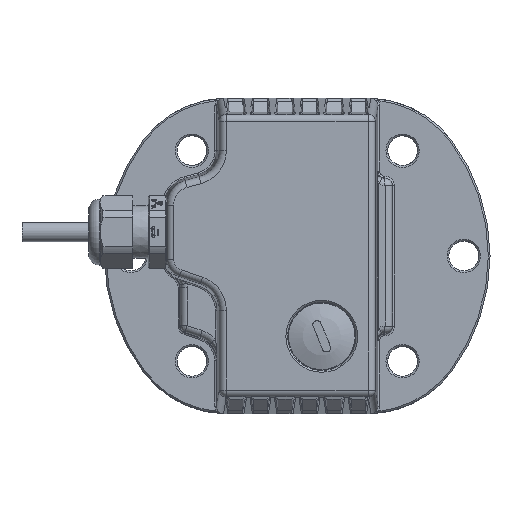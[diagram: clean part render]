
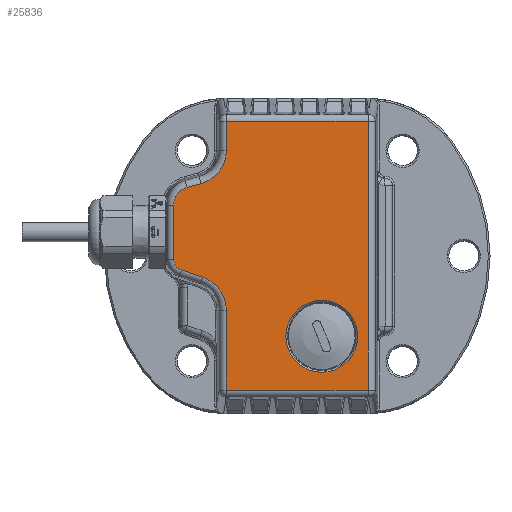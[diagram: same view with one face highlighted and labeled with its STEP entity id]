
A CAD part, top view. The second image highlights one B-rep face of the part: STEP entity #25836.
In plain terms, the highlighted planar face has unit normal (0, 0, 1).
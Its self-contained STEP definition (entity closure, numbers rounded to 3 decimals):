
#403=PLANE('',#28257);
#1397=CIRCLE('',#27369,10.25);
#1478=CIRCLE('',#27588,9.965);
#1486=CIRCLE('',#27600,3.249);
#1494=CIRCLE('',#27612,5.249);
#1502=CIRCLE('',#27624,9.803);
#2573=LINE('',#40751,#4981);
#2577=LINE('',#40770,#4985);
#2587=LINE('',#40784,#4995);
#2588=LINE('',#40800,#4996);
#2591=LINE('',#40807,#4999);
#2602=LINE('',#40833,#5010);
#2605=LINE('',#40840,#5013);
#2607=LINE('',#40854,#5015);
#4981=VECTOR('',#30720,1000.);
#4985=VECTOR('',#30744,1000.);
#4995=VECTOR('',#30758,1000.);
#4996=VECTOR('',#30779,1000.);
#4999=VECTOR('',#30786,1000.);
#5010=VECTOR('',#30817,1000.);
#5013=VECTOR('',#30824,1000.);
#5015=VECTOR('',#30844,1000.);
#9542=ORIENTED_EDGE('',*,*,#15376,.F.);
#9543=ORIENTED_EDGE('',*,*,#15370,.F.);
#9544=ORIENTED_EDGE('',*,*,#15381,.F.);
#9545=ORIENTED_EDGE('',*,*,#15400,.F.);
#9546=ORIENTED_EDGE('',*,*,#15422,.F.);
#9547=ORIENTED_EDGE('',*,*,#15434,.F.);
#9548=ORIENTED_EDGE('',*,*,#15432,.F.);
#9549=ORIENTED_EDGE('',*,*,#15426,.F.);
#9550=ORIENTED_EDGE('',*,*,#15410,.T.);
#9551=ORIENTED_EDGE('',*,*,#15404,.F.);
#9552=ORIENTED_EDGE('',*,*,#15398,.T.);
#9553=ORIENTED_EDGE('',*,*,#15392,.F.);
#9554=ORIENTED_EDGE('',*,*,#15007,.T.);
#15007=EDGE_CURVE('',#18792,#18792,#1397,.T.);
#15370=EDGE_CURVE('',#19043,#19040,#2573,.T.);
#15376=EDGE_CURVE('',#19040,#19045,#1478,.T.);
#15381=EDGE_CURVE('',#19048,#19043,#2577,.T.);
#15392=EDGE_CURVE('',#19045,#19049,#2587,.T.);
#15398=EDGE_CURVE('',#19052,#19049,#1486,.T.);
#15400=EDGE_CURVE('',#19055,#19048,#2588,.T.);
#15404=EDGE_CURVE('',#19052,#19056,#2591,.T.);
#15410=EDGE_CURVE('',#19059,#19056,#1494,.T.);
#15422=EDGE_CURVE('',#19062,#19055,#2602,.T.);
#15426=EDGE_CURVE('',#19059,#19063,#2605,.T.);
#15432=EDGE_CURVE('',#19063,#19066,#1502,.T.);
#15434=EDGE_CURVE('',#19066,#19062,#2607,.T.);
#18792=VERTEX_POINT('',#38113);
#19040=VERTEX_POINT('',#40745);
#19043=VERTEX_POINT('',#40750);
#19045=VERTEX_POINT('',#40759);
#19048=VERTEX_POINT('',#40769);
#19049=VERTEX_POINT('',#40781);
#19052=VERTEX_POINT('',#40792);
#19055=VERTEX_POINT('',#40799);
#19056=VERTEX_POINT('',#40804);
#19059=VERTEX_POINT('',#40815);
#19062=VERTEX_POINT('',#40832);
#19063=VERTEX_POINT('',#40837);
#19066=VERTEX_POINT('',#40848);
#21889=EDGE_LOOP('',(#9542,#9543,#9544,#9545,#9546,#9547,#9548,#9549,#9550,
#9551,#9552,#9553));
#21890=EDGE_LOOP('',(#9554));
#23700=FACE_BOUND('',#21889,.T.);
#23701=FACE_BOUND('',#21890,.T.);
#25836=ADVANCED_FACE('',(#23700,#23701),#403,.T.);
#27369=AXIS2_PLACEMENT_3D('',#38112,#30193,#30194);
#27588=AXIS2_PLACEMENT_3D('',#40762,#30735,#30736);
#27600=AXIS2_PLACEMENT_3D('',#40795,#30773,#30774);
#27612=AXIS2_PLACEMENT_3D('',#40818,#30801,#30802);
#27624=AXIS2_PLACEMENT_3D('',#40851,#30839,#30840);
#28257=AXIS2_PLACEMENT_3D('',#43372,#32440,#32441);
#30193=DIRECTION('',(0.,0.,-1.));
#30194=DIRECTION('',(0.,1.,0.));
#30720=DIRECTION('',(0.,1.,0.));
#30735=DIRECTION('',(0.,0.,1.));
#30736=DIRECTION('',(1.,0.,0.));
#30744=DIRECTION('',(-1.,0.,0.));
#30758=DIRECTION('',(-0.946,0.326,0.));
#30773=DIRECTION('',(0.,0.,1.));
#30774=DIRECTION('',(1.,0.,0.));
#30779=DIRECTION('',(0.,-1.,0.));
#30786=DIRECTION('',(0.,1.,0.));
#30801=DIRECTION('',(0.,0.,1.));
#30802=DIRECTION('',(1.,0.,0.));
#30817=DIRECTION('',(1.,0.,0.));
#30824=DIRECTION('',(0.963,0.27,0.));
#30839=DIRECTION('',(0.,0.,1.));
#30840=DIRECTION('',(1.,0.,0.));
#30844=DIRECTION('',(0.,1.,0.));
#32440=DIRECTION('',(0.,0.,1.));
#32441=DIRECTION('',(1.,0.,0.));
#38112=CARTESIAN_POINT('',(7.,-23.,52.));
#38113=CARTESIAN_POINT('',(7.,-12.75,52.));
#40745=CARTESIAN_POINT('',(-20.249,-15.57,52.));
#40750=CARTESIAN_POINT('',(-20.249,-38.356,52.));
#40751=CARTESIAN_POINT('',(-20.249,-38.149,52.));
#40759=CARTESIAN_POINT('',(-26.97,-6.148,52.));
#40762=CARTESIAN_POINT('',(-30.215,-15.57,52.));
#40769=CARTESIAN_POINT('',(20.249,-38.356,52.));
#40770=CARTESIAN_POINT('',(20.218,-38.356,52.));
#40781=CARTESIAN_POINT('',(-33.058,-4.052,52.));
#40784=CARTESIAN_POINT('',(-26.97,-6.148,52.));
#40792=CARTESIAN_POINT('',(-35.249,-0.98,52.));
#40795=CARTESIAN_POINT('',(-32.,-0.98,52.));
#40799=CARTESIAN_POINT('',(20.249,38.356,52.));
#40800=CARTESIAN_POINT('',(20.249,38.149,52.));
#40804=CARTESIAN_POINT('',(-35.249,14.434,52.));
#40807=CARTESIAN_POINT('',(-35.249,-0.98,52.));
#40815=CARTESIAN_POINT('',(-31.417,19.489,52.));
#40818=CARTESIAN_POINT('',(-30.,14.434,52.));
#40832=CARTESIAN_POINT('',(-20.249,38.356,52.));
#40833=CARTESIAN_POINT('',(-20.218,38.356,52.));
#40837=CARTESIAN_POINT('',(-27.406,20.613,52.));
#40840=CARTESIAN_POINT('',(-31.417,19.489,52.));
#40848=CARTESIAN_POINT('',(-20.249,30.052,52.));
#40851=CARTESIAN_POINT('',(-30.052,30.052,52.));
#40854=CARTESIAN_POINT('',(-20.249,30.052,52.));
#43372=CARTESIAN_POINT('',(25.,-20.,52.));
